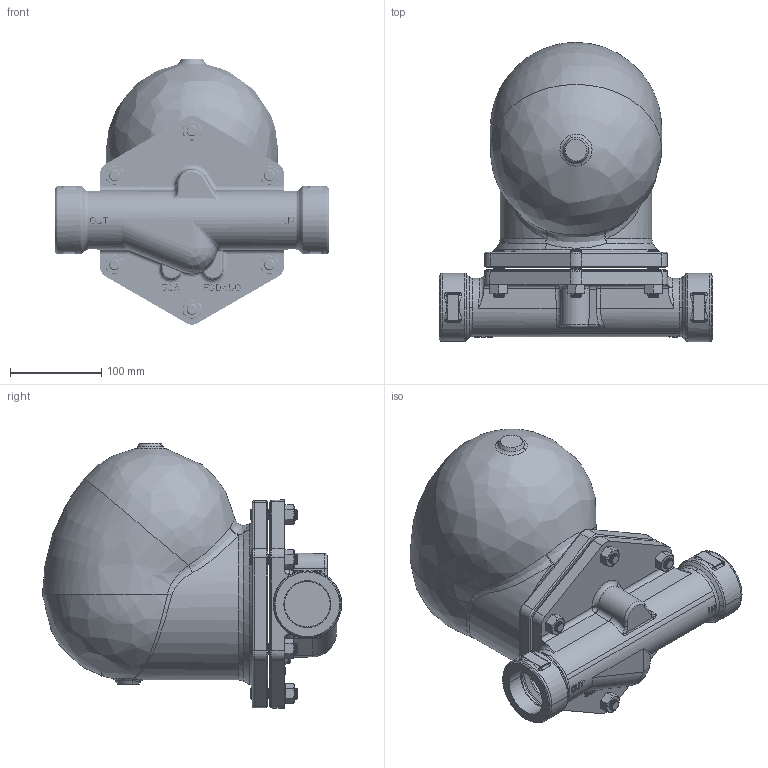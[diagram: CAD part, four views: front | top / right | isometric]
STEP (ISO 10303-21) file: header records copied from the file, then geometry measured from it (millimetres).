
FILE_DESCRIPTION( (''), '2;1');
FILE_NAME ('PC1027.12188.TSF-13 JIS Rc,NPT 50A_18145.stp','2025-07-31T14:59:42',(''),(''),'spGate 20.6.3 (****-****-****-****)','','');
FILE_SCHEMA (('AUTOMOTIVE_DESIGN'));
Length unit declared in the file: millimetre
Products named in the file (5): Assembly; Nut M12.stp; Stud bolt M12.stp; _{__.stp; TK286b____i_`____L______.stp
Assembly tree (14 placements, depth 2):
  Assembly
    Nut M12.stp  x6
    Stud bolt M12.stp  x6
    _{__.stp
    TK286b____i_`____L______.stp
Bounding box: 300 x 328 x 290.85 mm (x, y, z)
Volume: 8812601.8 mm3; surface area: 403363.9 mm2
Topology: 14 solids, 14 shells, 1106 faces, 5213 edges, 4124 vertices
Faces by surface type: cylinder 442, bspline 439, plane 222, sphere 3
Entity records: 71786 total; most frequent: CARTESIAN_POINT 38138, ORIENTED_EDGE 4758, COLOUR_RGB 3094, PRESENTATION_STYLE_ASSIGNMENT 3094, STYLED_ITEM 3094, EDGE_CURVE 2379, DRAUGHTING_PRE_DEFINED_CURVE_FONT 2379, CURVE_STYLE 2379
